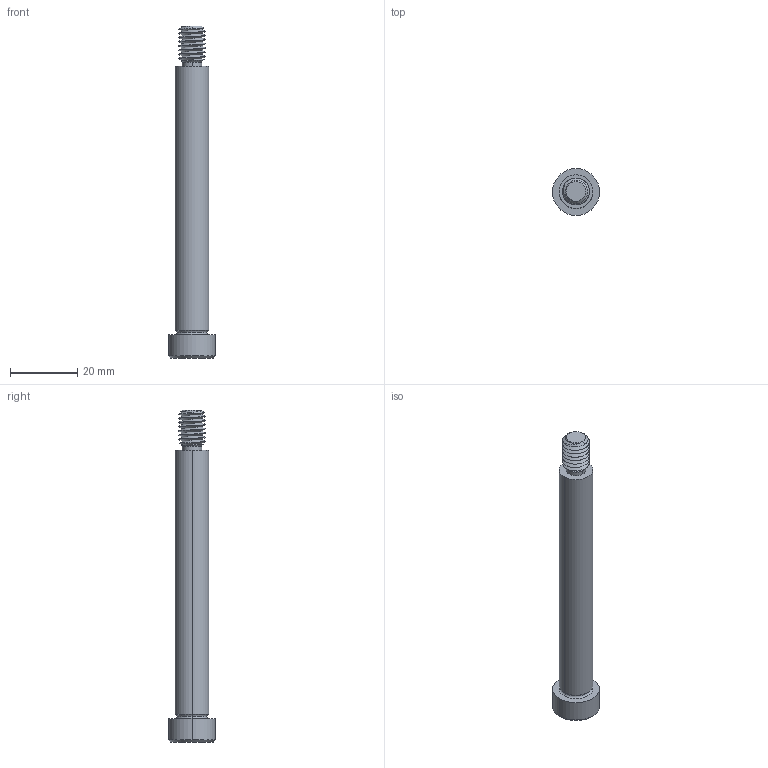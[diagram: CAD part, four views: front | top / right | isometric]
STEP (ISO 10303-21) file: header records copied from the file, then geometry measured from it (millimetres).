
FILE_DESCRIPTION (( 'STEP AP203' ), '1' );
FILE_NAME ('P0130.100-080-B8.step', '2021-11-09T21:59:00', ( '' ), ( '' ), 'SwSTEP 2.0', 'SolidWorks 2019', '' );
FILE_SCHEMA (( 'CONFIG_CONTROL_DESIGN' ));
Length unit declared in the file: millimetre
Products named in the file (1): P0130.100-080-B8
Bounding box: 14 x 14 x 99 mm (x, y, z)
Volume: 7650.9 mm3; surface area: 3691.2 mm2
Topology: 1 solids, 1 shells, 58 faces, 136 edges, 81 vertices
Faces by surface type: cylinder 21, plane 16, cone 15, torus 4, bspline 2
Entity records: 4214 total; most frequent: CARTESIAN_POINT 2911, ORIENTED_EDGE 268, DIRECTION 241, EDGE_CURVE 134, AXIS2_PLACEMENT_3D 97, VERTEX_POINT 81, EDGE_LOOP 61, ADVANCED_FACE 58
